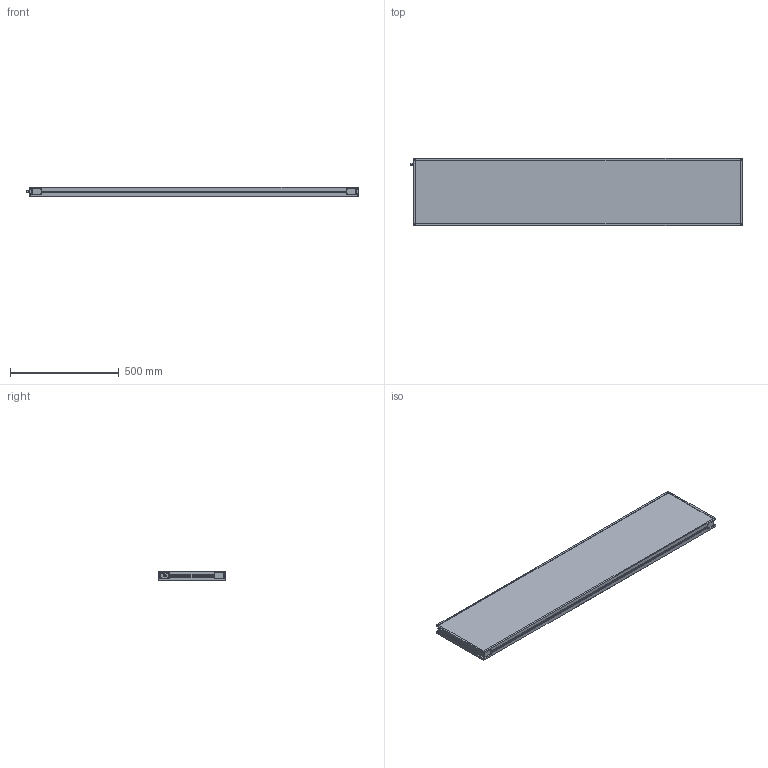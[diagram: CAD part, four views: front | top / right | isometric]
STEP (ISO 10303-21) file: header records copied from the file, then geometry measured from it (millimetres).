
FILE_DESCRIPTION (( 'STEP AP214' ), '1' );
FILE_NAME ('MBACK-xxxx-xxx-M1_CLIENT300x1500.STEP', '2022-03-31T16:00:46', ( '' ), ( '' ), 'SwSTEP 2.0', 'SolidWorks 2020', '' );
FILE_SCHEMA (( 'AUTOMOTIVE_DESIGN' ));
Length unit declared in the file: millimetre
Products named in the file (1): MBACK-xxxx-xxx-M1_CLIENT300x1500
Bounding box: 1525.9 x 308 x 45.5 mm (x, y, z)
Volume: 19287768 mm3; surface area: 1170112 mm2
Topology: 1 solids, 1 shells, 442 faces, 1144 edges, 760 vertices
Faces by surface type: plane 249, cylinder 105, bspline 80, cone 8
Entity records: 17236 total; most frequent: CARTESIAN_POINT 6699, ORIENTED_EDGE 2288, DIRECTION 1936, EDGE_CURVE 1144, VERTEX_POINT 760, LINE 758, VECTOR 758, AXIS2_PLACEMENT_3D 589
